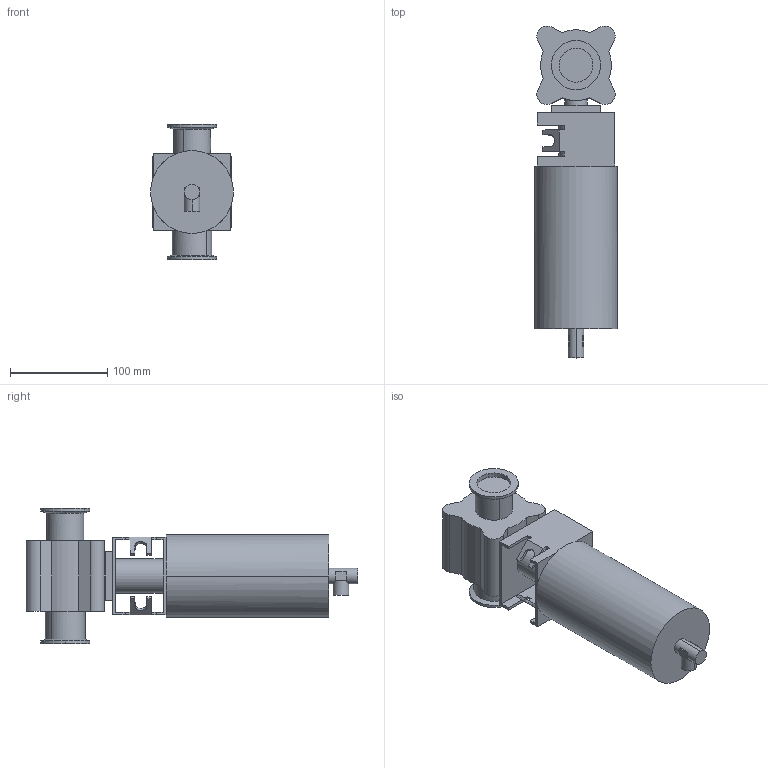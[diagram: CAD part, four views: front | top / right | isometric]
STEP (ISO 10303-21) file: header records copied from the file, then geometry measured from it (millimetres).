
FILE_DESCRIPTION(('Creo Elements/Direct Modeling STEP Export'),'2;1');
FILE_NAME('BLV1-1.5T-NC-12CL.stp','2019-05-10T 8:00:26',(''),(''),'Creo Elements/Direct Modeling STEP processor for AP214 (Solid Model)','Creo Elements/Direct Modeling 19.0F 14-Feb-2017 (C) Parametric Technology GmbH','');
FILE_SCHEMA(('AUTOMOTIVE_DESIGN { 1 0 10303 214 1 1 1 1 }'));
Length unit declared in the file: millimetre
Products named in the file (2): BLV1-1.5T-NC-12CL
Assembly tree (1 placements, depth 2):
  BLV1-1.5T-NC-12CL
    BLV1-1.5T-NC-12CL
Bounding box: 85 x 340.74 x 139 mm (x, y, z)
Volume: 1556913.7 mm3; surface area: 139754 mm2
Topology: 1 solids, 1 shells, 116 faces, 307 edges, 200 vertices
Faces by surface type: plane 80, cylinder 32, revolution 2, cone 2
Entity records: 3378 total; most frequent: CARTESIAN_POINT 665, ORIENTED_EDGE 614, DIRECTION 489, EDGE_CURVE 307, VERTEX_POINT 200, VECTOR 193, LINE 193, AXIS2_PLACEMENT_3D 147
